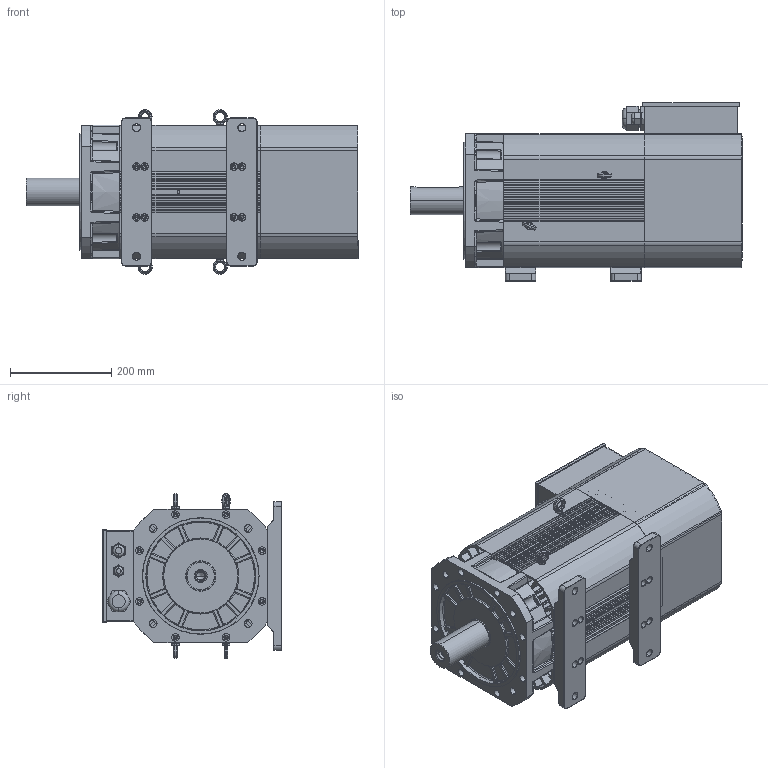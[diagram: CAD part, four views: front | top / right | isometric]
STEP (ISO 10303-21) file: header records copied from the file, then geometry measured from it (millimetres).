
FILE_DESCRIPTION (( 'STEP AP203' ), '1' );
FILE_NAME ('265L-B35-55J 俋倛芞.STEP', '2022-04-15T08:44:50', ( '' ), ( '' ), 'SwSTEP 2.0', 'SolidWorks 2016', '' );
FILE_SCHEMA (( 'CONFIG_CONTROL_DESIGN' ));
Length unit declared in the file: millimetre
Products named in the file (22): 齬脣晤鎢ん啣; 接线盒后盖风罩组件; 瑞儂諉盄翐; 齬脣鼠芛; 265諉盄碟裔; M8X12裂遠; ヶ裔55J郪璃; M36蹟杶; M20X1.5蹟杶; 265后端盖铸铁_光电编码器; 265-55J-粣18.5kw; 265菁褐; M16X1.5蹟杶; 265L儂褲18.5KW; 265諉盄碟; 諉盄碟郪璃; 265L-B35-55J 俋倛芞; 265芧埽ヶ傷裔; 265瑞欶; cross recessed cheese head screws gb_GB_CROSS_SCREWS_TYPE2 M3X4-4  H type-N
Assembly tree (30 placements, depth 5):
  265L-B35-55J 俋倛芞
    265L儂褲18.5KW
    接线盒后盖风罩组件
      265后端盖铸铁_光电编码器
      265瑞欶
      諉盄碟郪璃
        265諉盄碟
        M36蹟杶
        M16X1.5蹟杶
        M20X1.5蹟杶
        265諉盄碟裔
        瑞儂諉盄翐
          瑞儂諉盄翐
          cross recessed cheese head screws gb_GB_CROSS_SCREWS_TYPE2 M3X4-4  H type-N  x6
        齬脣晤鎢ん啣
          齬脣晤鎢ん啣
          齬脣鼠芛
    M8X12裂遠  x4
    265菁褐  x2
    ヶ裔55J郪璃
      265芧埽ヶ傷裔
      265-55J-粣18.5kw
Bounding box: 655 x 352.5 x 324 mm (x, y, z)
Volume: 8933385 mm3; surface area: 2490011.5 mm2
Topology: 25 solids, 25 shells, 2598 faces, 6845 edges, 4249 vertices
Faces by surface type: cylinder 1097, plane 884, cone 227, torus 184, bspline 126, sphere 80
Entity records: 77052 total; most frequent: CARTESIAN_POINT 17961, DIRECTION 12374, ORIENTED_EDGE 11630, EDGE_CURVE 5815, AXIS2_PLACEMENT_3D 4735, VERTEX_POINT 3672, VECTOR 2904, LINE 2904
